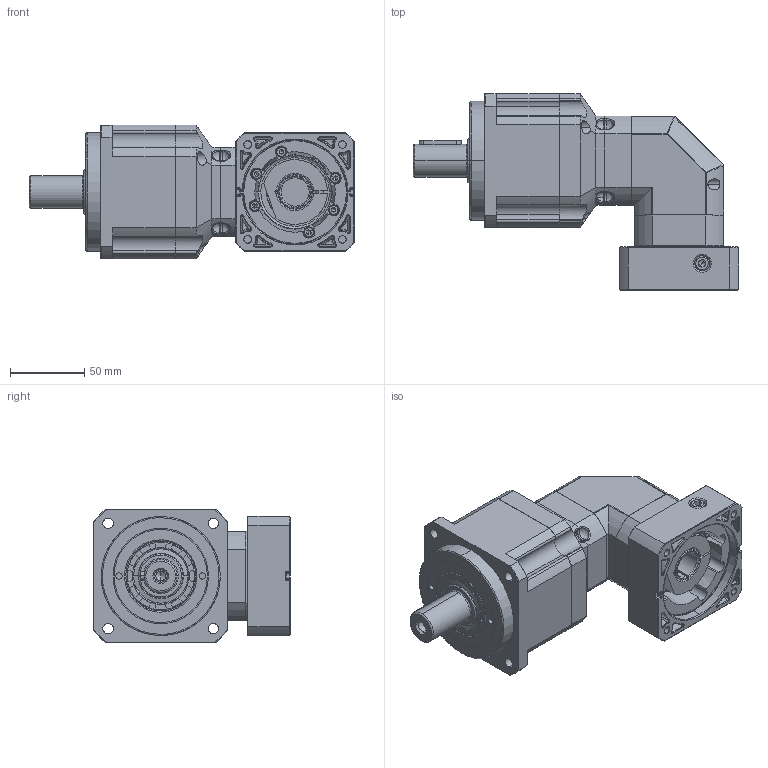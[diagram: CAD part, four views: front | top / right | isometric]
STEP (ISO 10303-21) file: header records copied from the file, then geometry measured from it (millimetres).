
FILE_DESCRIPTION (( 'STEP AP214' ), '1' );
FILE_NAME ('PAR090-L2-S2-P2 19-70-90-M6.STEP', '2021-04-26T09:11:37', ( 'User' ), ( 'china' ), 'SwSTEP 2.0', 'SolidWorks 2016', '' );
FILE_SCHEMA (( 'AUTOMOTIVE_DESIGN' ));
Length unit declared in the file: millimetre
Products named in the file (17): 隅弇覃淕杶PAR090D-1; 怀堤俴陎殤PAR090-5D-1; 输出内齿圈壳体PAR090D-Z108-1; PAR090-L2-S2-P2 19-70-90-M6; hexagon socket head cap screws gb(GB_FASTENER_SCREWS_HSHCS M5X16-N)-2; A倰す瑩 6-28-1; 7-怀堤傷褲极PAR060D-1; hexagon socket head cap screws gb(GB_FASTENER_SCREWS_HSHCS M4X25-N)-1; hexagon socket head cap screws gb(GB_FASTENER_SCREWS_HSHCS M4X16-N)-1; hex socket set screws with cone point gb(GB_FASTENER_SCREWS_HSCP M10X10-N)-1; 坶踡遠23-43.5-12(1); 输入轴PAR060M1-19; 12-输入法兰PAR060M1-70X30XM6; 4-输入端壳体PAR060M1; 珨撰眻褒眊极PAR060D-1; 一级内齿圈壳体PAR060D-Z108-1; 蚐猾30476-1
Assembly tree (27 placements, depth 2):
  PAR090-L2-S2-P2 19-70-90-M6
    输出内齿圈壳体PAR090D-Z108-1
    怀堤俴陎殤PAR090-5D-1
    隅弇覃淕杶PAR090D-1
    蚐猾30476-1
    一级内齿圈壳体PAR060D-Z108-1
    珨撰眻褒眊极PAR060D-1
    4-输入端壳体PAR060M1
    12-输入法兰PAR060M1-70X30XM6
    输入轴PAR060M1-19
    坶踡遠23-43.5-12(1)
    hex socket set screws with cone point gb(GB_FASTENER_SCREWS_HSCP M10X10-N)-1
    hexagon socket head cap screws gb(GB_FASTENER_SCREWS_HSHCS M4X16-N)-1  x6
    hexagon socket head cap screws gb(GB_FASTENER_SCREWS_HSHCS M4X25-N)-1  x4
    7-怀堤傷褲极PAR060D-1
    A倰す瑩 6-28-1
    hexagon socket head cap screws gb(GB_FASTENER_SCREWS_HSHCS M5X16-N)-2  x4
Bounding box: 218.5 x 132 x 90 mm (x, y, z)
Volume: 1016514 mm3; surface area: 178428.6 mm2
Topology: 28 solids, 29 shells, 1329 faces, 3221 edges, 1972 vertices
Faces by surface type: plane 462, cylinder 441, cone 218, bspline 208
Entity records: 56858 total; most frequent: CARTESIAN_POINT 20463, ORIENTED_EDGE 5092, DIRECTION 5007, EDGE_CURVE 2546, AXIS2_PLACEMENT_3D 2005, VERTEX_POINT 1597, EDGE_LOOP 1177, CIRCLE 1107
